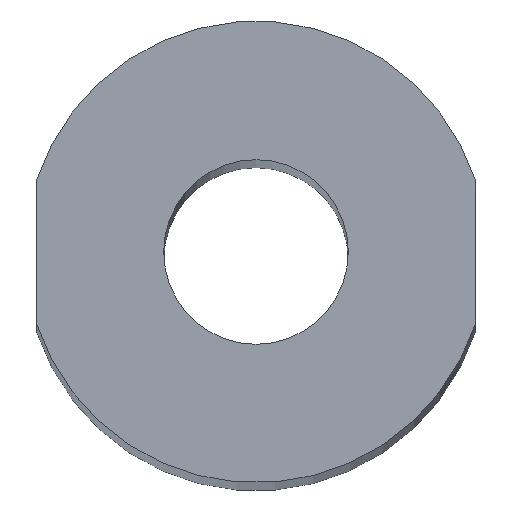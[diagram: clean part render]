
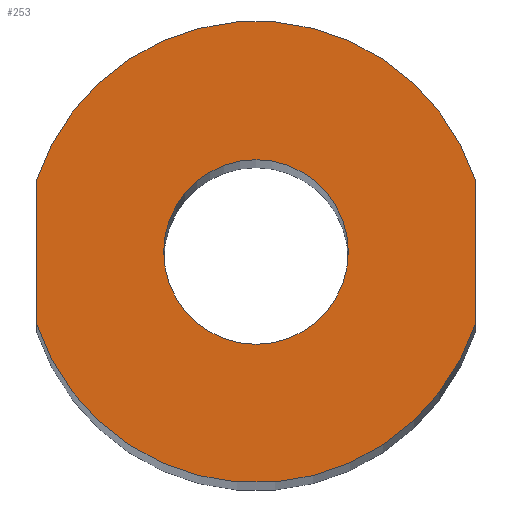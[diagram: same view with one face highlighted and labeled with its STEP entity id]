
A CAD part, top view. The second image highlights one B-rep face of the part: STEP entity #253.
In plain terms, the highlighted planar face has unit normal (0, 0, 1).
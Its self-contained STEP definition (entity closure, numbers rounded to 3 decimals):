
#73=CARTESIAN_POINT('',(4.,0.,150.0));
#74=VERTEX_POINT('',#73);
#75=CARTESIAN_POINT('',(0.0,0.0,150.0));
#76=DIRECTION('',(0.0,0.0,-1.0));
#77=DIRECTION('',(-1.0,0.0,0.0));
#78=AXIS2_PLACEMENT_3D('',#75,#76,#77);
#79=CIRCLE('',#78,4.);
#80=EDGE_CURVE('',#74,#74,#79,.T.);
#101=CARTESIAN_POINT('',(-9.5,3.122,150.0));
#102=VERTEX_POINT('',#101);
#103=CARTESIAN_POINT('',(9.5,3.122,150.0));
#104=VERTEX_POINT('',#103);
#105=CARTESIAN_POINT('',(0.0,0.,150.0));
#106=DIRECTION('',(0.0,0.0,-1.));
#107=DIRECTION('',(0.95,0.312,0.0));
#108=AXIS2_PLACEMENT_3D('',#105,#106,#107);
#109=CIRCLE('',#108,10.);
#110=EDGE_CURVE('',#102,#104,#109,.T.);
#143=CARTESIAN_POINT('',(9.5,-3.122,150.0));
#144=VERTEX_POINT('',#143);
#145=CARTESIAN_POINT('',(9.5,3.122,150.0));
#146=DIRECTION('',(0.0,-1.0,0.0));
#147=VECTOR('',#146,6.245);
#148=LINE('',#145,#147);
#149=EDGE_CURVE('',#104,#144,#148,.T.);
#174=CARTESIAN_POINT('',(-9.5,-3.122,150.0));
#175=VERTEX_POINT('',#174);
#176=CARTESIAN_POINT('',(0.0,0.,150.0));
#177=DIRECTION('',(0.0,0.0,-1.));
#178=DIRECTION('',(-0.95,-0.312,0.0));
#179=AXIS2_PLACEMENT_3D('',#176,#177,#178);
#180=CIRCLE('',#179,10.);
#181=EDGE_CURVE('',#144,#175,#180,.T.);
#207=CARTESIAN_POINT('',(-9.5,-3.122,150.0));
#208=DIRECTION('',(0.0,1.0,0.0));
#209=VECTOR('',#208,6.245);
#210=LINE('',#207,#209);
#211=EDGE_CURVE('',#175,#102,#210,.T.);
#239=CARTESIAN_POINT('',(0.,0.0,150.0));
#240=DIRECTION('',(0.0,0.0,1.0));
#241=DIRECTION('',(1.0,0.0,0.0));
#242=AXIS2_PLACEMENT_3D('',#239,#240,#241);
#243=PLANE('',#242);
#244=ORIENTED_EDGE('',*,*,#110,.F.);
#245=ORIENTED_EDGE('',*,*,#211,.F.);
#246=ORIENTED_EDGE('',*,*,#181,.F.);
#247=ORIENTED_EDGE('',*,*,#149,.F.);
#248=EDGE_LOOP('',(#244,#245,#246,#247));
#249=FACE_OUTER_BOUND('',#248,.T.);
#250=ORIENTED_EDGE('',*,*,#80,.T.);
#251=EDGE_LOOP('',(#250));
#252=FACE_BOUND('',#251,.T.);
#253=ADVANCED_FACE('',(#249,#252),#243,.T.);
